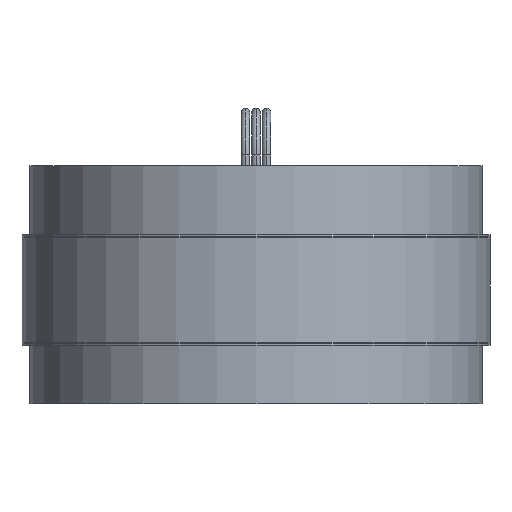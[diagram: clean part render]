
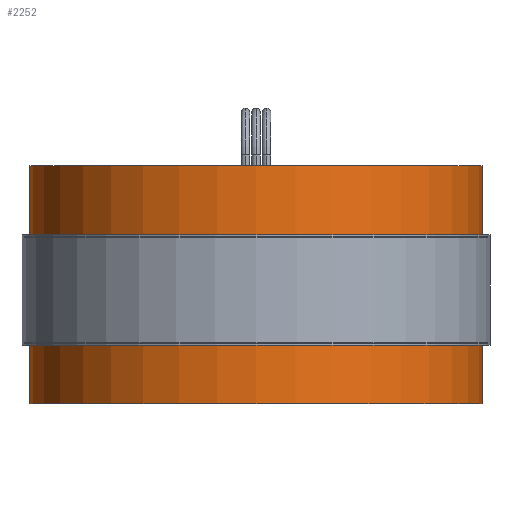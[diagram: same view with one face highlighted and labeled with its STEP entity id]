
A CAD part, front view. The second image highlights one B-rep face of the part: STEP entity #2252.
In plain terms, the highlighted cylindrical face has radius 53.975 mm (diameter 107.95 mm), a partial arc.
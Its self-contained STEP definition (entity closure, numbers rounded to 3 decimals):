
#46 = LINE ( 'NONE', #1548, #732 ) ;
#55 = DIRECTION ( 'NONE',  ( 0., 0., 1. ) ) ;
#149 = AXIS2_PLACEMENT_3D ( 'NONE', #382, #225, #2377 ) ;
#225 = DIRECTION ( 'NONE',  ( 0., 0., 1. ) ) ;
#275 = ORIENTED_EDGE ( 'NONE', *, *, #826, .T. ) ;
#286 = CARTESIAN_POINT ( 'NONE',  ( -53.975, 0., -27.178 ) ) ;
#351 = VERTEX_POINT ( 'NONE', #1162 ) ;
#382 = CARTESIAN_POINT ( 'NONE',  ( 0., 0., -27.178 ) ) ;
#402 = CARTESIAN_POINT ( 'NONE',  ( 53.975, 0., -27.178 ) ) ;
#408 = CIRCLE ( 'NONE', #1656, 53.975 ) ;
#423 = DIRECTION ( 'NONE',  ( 0., 0., 1. ) ) ;
#474 = CIRCLE ( 'NONE', #149, 53.975 ) ;
#497 = EDGE_CURVE ( 'NONE', #1858, #2217, #46, .T. ) ;
#513 = ORIENTED_EDGE ( 'NONE', *, *, #2118, .T. ) ;
#540 = VECTOR ( 'NONE', #423, 1000. ) ;
#644 = EDGE_LOOP ( 'NONE', ( #717, #275, #513, #1202 ) ) ;
#717 = ORIENTED_EDGE ( 'NONE', *, *, #497, .F. ) ;
#732 = VECTOR ( 'NONE', #1348, 1000. ) ;
#826 = EDGE_CURVE ( 'NONE', #1858, #351, #474, .T. ) ;
#1033 = FACE_OUTER_BOUND ( 'NONE', #644, .T. ) ;
#1079 = LINE ( 'NONE', #402, #540 ) ;
#1162 = CARTESIAN_POINT ( 'NONE',  ( 53.975, 0., -27.178 ) ) ;
#1170 = CARTESIAN_POINT ( 'NONE',  ( 0., 0., 29.718 ) ) ;
#1202 = ORIENTED_EDGE ( 'NONE', *, *, #1940, .F. ) ;
#1243 = CARTESIAN_POINT ( 'NONE',  ( 53.975, 0., 29.718 ) ) ;
#1348 = DIRECTION ( 'NONE',  ( 0., 0., 1. ) ) ;
#1445 = DIRECTION ( 'NONE',  ( 1., 0., 0. ) ) ;
#1548 = CARTESIAN_POINT ( 'NONE',  ( -53.975, 0., -27.178 ) ) ;
#1556 = CYLINDRICAL_SURFACE ( 'NONE', #2235, 53.975 ) ;
#1656 = AXIS2_PLACEMENT_3D ( 'NONE', #1170, #1934, #2140 ) ;
#1837 = CARTESIAN_POINT ( 'NONE',  ( 0., 0., -27.178 ) ) ;
#1858 = VERTEX_POINT ( 'NONE', #286 ) ;
#1934 = DIRECTION ( 'NONE',  ( 0., 0., 1. ) ) ;
#1940 = EDGE_CURVE ( 'NONE', #2217, #2414, #408, .T. ) ;
#2118 = EDGE_CURVE ( 'NONE', #351, #2414, #1079, .T. ) ;
#2140 = DIRECTION ( 'NONE',  ( 1., 0., 0. ) ) ;
#2217 = VERTEX_POINT ( 'NONE', #2420 ) ;
#2235 = AXIS2_PLACEMENT_3D ( 'NONE', #1837, #55, #1445 ) ;
#2252 = ADVANCED_FACE ( 'NONE', ( #1033 ), #1556, .T. ) ;
#2377 = DIRECTION ( 'NONE',  ( 1., 0., 0. ) ) ;
#2414 = VERTEX_POINT ( 'NONE', #1243 ) ;
#2420 = CARTESIAN_POINT ( 'NONE',  ( -53.975, 0., 29.718 ) ) ;
